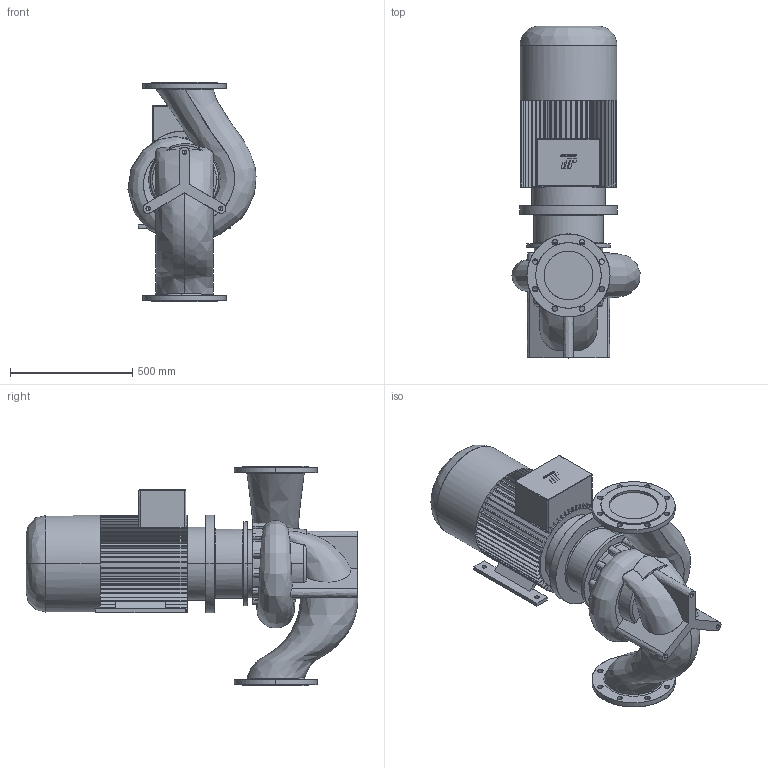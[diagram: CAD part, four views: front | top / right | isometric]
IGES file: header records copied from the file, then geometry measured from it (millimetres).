
Start section: CombiLine
Global section: file name: CLB_200-200_IEC200L_ND10.igs; native system:  By UGS Corp.; preprocessor: XPlus GENERIC/IGES 3.0; author: Stageplaats; organization: Johnson Pump Water B.V.; date: 20070718.092036; units: millimetre
Bounding box: 524.47 x 1358.5 x 900 mm (x, y, z)
Surface area: 3797836.6 mm2 (no closed solid volume)
Topology: 0 solids, 0 shells, 633 faces, 3842 edges, 3836 vertices
Faces by surface type: bspline 633
